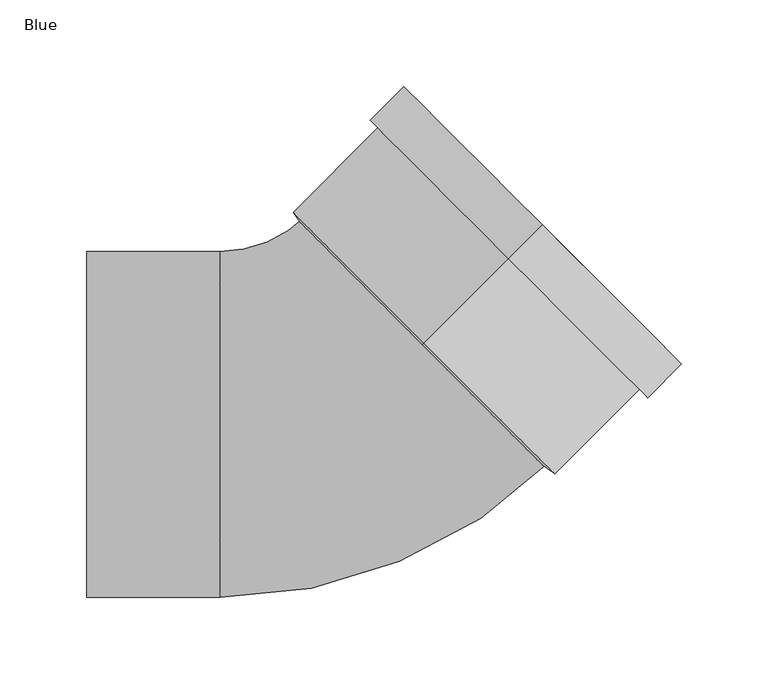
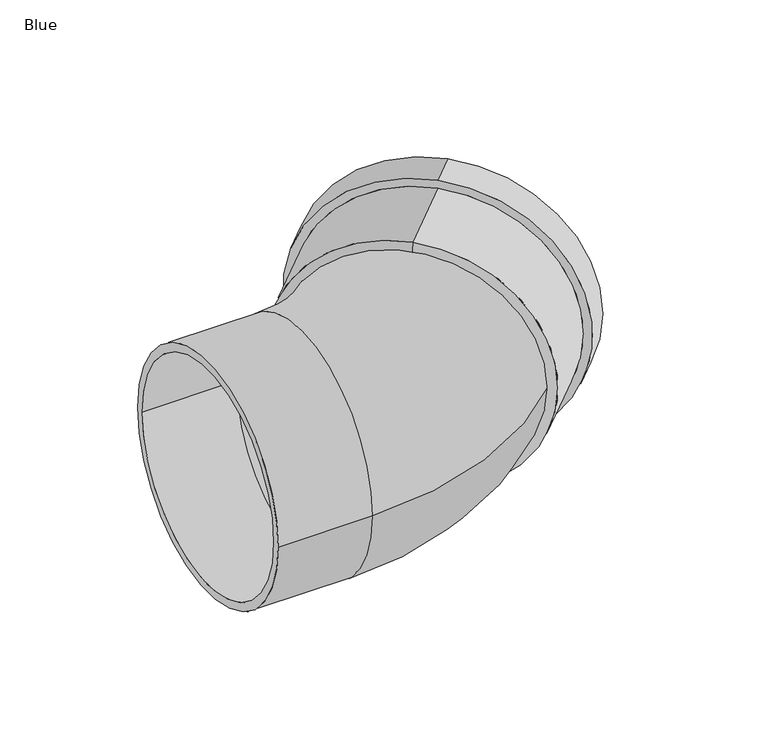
"""IFC4 building model written with IfcOpenShell, lengths in millimetres: pipe fitting geometry, AWADUKT PP SN10 Bend : Blue."""

from ifc_helpers import new_model, si_unit, point, frame, origin, place, context, project, spatial, polyline, circle_curve, ellipse_curve, trimmed, source, transform, mapped, element, save
from ifc_brep_helpers import plane_surface, cylinder_surface, revolved_surface, advanced_brep


def blue_9c2ccc73(model_context):
    return source(origin(), model_context, "Body", "AdvancedBrep", [
        advanced_brep(
        [(95.8836795, 95.8836795, 106.9), (95.8836795, 95.8836795, -106.9), (46.9708893, 46.9708893, -106.9), (46.9708893, 46.9708893, 106.9), (115.3998267, 115.3998267, 113.8), (115.3998267, 115.3998267, -113.8), (95.8836795, 95.8836795, -113.8), (95.8836795, 95.8836795, 113.8), (110.5207899, 110.5207899, 100.0), (110.5207899, 110.5207899, -100.0), (115.3998267, 115.3998267, -100.0), (115.3998267, 115.3998267, 100.0), (100.7627163, 100.7627163, 106.9), (100.7627163, 100.7627163, -106.9), (110.5207899, 110.5207899, -106.9), (110.5207899, 110.5207899, 106.9), (51.0648873, 51.0648873, 100.0), (51.0648873, 51.0648873, -100.0), (100.7627163, 100.7627163, -100.0), (100.7627163, 100.7627163, 100.0), (50.2045815, 50.2045815, 93.1), (50.2045815, 50.2045815, -93.1), (45.2502777, 45.2502777, 93.1), (45.2502777, 45.2502777, -93.1)],
        [
            (0, 1, circle_curve(frame((95.8836795, 95.8836795, 0.0), z_axis=(-0.7071067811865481, -0.7071067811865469, 0.0), x_axis=(0.0, 0.0, -1.0)), 106.9)),
            (1, 2),
            (2, 3, circle_curve(frame((46.9708893, 46.9708893, 0.0), z_axis=(0.7071067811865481, 0.7071067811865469, 0.0), x_axis=(0.0, 0.0, -1.0)), 106.9)),
            (3, 0),
            (4, 5, circle_curve(frame((115.3998267, 115.3998267, 0.0), z_axis=(-0.7071067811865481, -0.7071067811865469, 0.0), x_axis=(0.0, 0.0, -1.0)), 113.8)),
            (5, 6),
            (6, 7, circle_curve(frame((95.8836795, 95.8836795, 0.0), z_axis=(0.7071067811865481, 0.7071067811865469, 0.0), x_axis=(0.0, 0.0, -1.0)), 113.8)),
            (7, 4),
            (8, 9, circle_curve(frame((110.5207899, 110.5207899, 0.0), z_axis=(-0.7071067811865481, -0.7071067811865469, 0.0), x_axis=(0.0, 0.0, -1.0)), 100.0)),
            (9, 10),
            (10, 11, circle_curve(frame((115.3998267, 115.3998267, 0.0), z_axis=(0.7071067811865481, 0.7071067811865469, 0.0), x_axis=(0.0, 0.0, -1.0)), 100.0)),
            (11, 8),
            (12, 13, circle_curve(frame((100.7627163, 100.7627163, 0.0), z_axis=(-0.7071067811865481, -0.7071067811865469, 0.0), x_axis=(0.0, 0.0, -1.0)), 106.9)),
            (13, 14),
            (14, 15, circle_curve(frame((110.5207899, 110.5207899, 0.0), z_axis=(0.7071067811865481, 0.7071067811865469, 0.0), x_axis=(0.0, 0.0, -1.0)), 106.9)),
            (15, 12),
            (16, 17, circle_curve(frame((51.0648873, 51.0648873, 0.0), z_axis=(-0.7071067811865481, -0.7071067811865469, 0.0), x_axis=(0.0, 0.0, -1.0)), 100.0)),
            (17, 18),
            (18, 19, circle_curve(frame((100.7627163, 100.7627163, 0.0), z_axis=(0.7071067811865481, 0.7071067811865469, 0.0), x_axis=(0.0, 0.0, -1.0)), 100.0)),
            (19, 16),
            (20, 21, circle_curve(frame((50.2045815, 50.2045815, 0.0), z_axis=(-0.7071067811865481, -0.7071067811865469, 0.0), x_axis=(0.0, 0.0, -1.0)), 93.1)),
            (21, 17),
            (16, 20),
            (22, 23, circle_curve(frame((45.2502777, 45.2502777, 0.0), z_axis=(-0.7071067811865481, -0.7071067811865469, 0.0), x_axis=(0.0, 0.0, -1.0)), 93.1)),
            (23, 21),
            (20, 22),
            (2, 23),
            (22, 3),
            (1, 0, circle_curve(frame((95.8836795, 95.8836795, 0.0), z_axis=(-0.7071067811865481, -0.7071067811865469, 0.0), x_axis=(0.0, 0.0, 1.0)), 106.9)),
            (3, 2, circle_curve(frame((46.9708893, 46.9708893, 0.0), z_axis=(0.7071067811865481, 0.7071067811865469, 0.0), x_axis=(0.0, 0.0, 1.0)), 106.9)),
            (6, 7, circle_curve(frame((95.8836795, 95.8836795, 0.0), z_axis=(-0.7071067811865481, -0.7071067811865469, 0.0), x_axis=(0.0, 0.0, 1.0)), 113.8)),
            (5, 4, circle_curve(frame((115.3998267, 115.3998267, 0.0), z_axis=(-0.7071067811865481, -0.7071067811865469, 0.0), x_axis=(0.0, 0.0, 1.0)), 113.8)),
            (10, 11, circle_curve(frame((115.3998267, 115.3998267, 0.0), z_axis=(-0.7071067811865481, -0.7071067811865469, 0.0), x_axis=(0.0, 0.0, 1.0)), 100.0)),
            (9, 8, circle_curve(frame((110.5207899, 110.5207899, 0.0), z_axis=(-0.7071067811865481, -0.7071067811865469, 0.0), x_axis=(0.0, 0.0, 1.0)), 100.0)),
            (14, 15, circle_curve(frame((110.5207899, 110.5207899, 0.0), z_axis=(-0.7071067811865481, -0.7071067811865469, 0.0), x_axis=(0.0, 0.0, 1.0)), 106.9)),
            (13, 12, circle_curve(frame((100.7627163, 100.7627163, 0.0), z_axis=(-0.7071067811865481, -0.7071067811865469, 0.0), x_axis=(0.0, 0.0, 1.0)), 106.9)),
            (18, 19, circle_curve(frame((100.7627163, 100.7627163, 0.0), z_axis=(-0.7071067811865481, -0.7071067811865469, 0.0), x_axis=(0.0, 0.0, 1.0)), 100.0)),
            (17, 16, circle_curve(frame((51.0648873, 51.0648873, 0.0), z_axis=(-0.7071067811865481, -0.7071067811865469, 0.0), x_axis=(0.0, 0.0, 1.0)), 100.0)),
            (21, 20, circle_curve(frame((50.2045815, 50.2045815, 0.0), z_axis=(-0.7071067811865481, -0.7071067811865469, 0.0), x_axis=(0.0, 0.0, 1.0)), 93.1)),
            (23, 22, circle_curve(frame((45.2502777, 45.2502777, 0.0), z_axis=(-0.7071067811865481, -0.7071067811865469, 0.0), x_axis=(0.0, 0.0, 1.0)), 93.1)),
        ],
        [
            cylinder_surface(frame((50.2045815, 50.2045815, 0.0), z_axis=(0.7071067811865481, 0.7071067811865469, 0.0), x_axis=(0.0, 0.0, -1.0)), 106.9),
            cylinder_surface(frame((50.2045815, 50.2045815, 0.0), z_axis=(0.7071067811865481, 0.7071067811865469, 0.0), x_axis=(0.0, 0.0, -1.0)), 113.8),
            revolved_surface(polyline([(115.39982670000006, 115.39982669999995, -100.0), (110.52078990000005, 110.52078989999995, -100.0)]), (50.2045815, 50.2045815, 0.0), (0.7071067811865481, 0.7071067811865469, 0.0)),
            revolved_surface(polyline([(110.52078990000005, 110.52078989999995, -106.9), (100.76271630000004, 100.76271629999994, -106.9)]), (50.2045815, 50.2045815, 0.0), (0.7071067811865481, 0.7071067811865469, 0.0)),
            revolved_surface(polyline([(100.76271630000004, 100.76271629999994, -100.0), (51.0648873, 51.0648873, -100.0)]), (50.2045815, 50.2045815, 0.0), (0.7071067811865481, 0.7071067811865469, 0.0)),
            revolved_surface(polyline([(51.0648873, 51.0648873, -100.0), (50.2045815, 50.2045815, -93.1)]), (50.2045815, 50.2045815, 0.0), (0.7071067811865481, 0.7071067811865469, 0.0)),
            revolved_surface(polyline([(50.2045815, 50.2045815, -93.1), (45.25027769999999, 45.250277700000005, -93.1)]), (50.2045815, 50.2045815, 0.0), (0.7071067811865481, 0.7071067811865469, 0.0)),
            revolved_surface(polyline([(45.2502777, 45.2502777, -93.1), (46.9708893, 46.9708893, -106.9)]), (50.2045815, 50.2045815, 0.0), (0.7071067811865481, 0.7071067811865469, 0.0)),
            cylinder_surface(frame((50.2045815, 50.2045815, 0.0), z_axis=(0.7071067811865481, 0.7071067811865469, 0.0), x_axis=(0.0, 0.0, 1.0)), 106.9),
            plane_surface(frame((95.8836795, 95.8836795, 0.0), z_axis=(-0.7071067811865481, -0.7071067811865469, 0.0), x_axis=(0.0, 0.0, 1.0))),
            cylinder_surface(frame((50.2045815, 50.2045815, 0.0), z_axis=(0.7071067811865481, 0.7071067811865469, 0.0), x_axis=(0.0, 0.0, 1.0)), 113.8),
            plane_surface(frame((115.3998267, 115.3998267, 0.0), z_axis=(0.7071067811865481, 0.7071067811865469, 0.0), x_axis=(0.0, 0.0, 1.0))),
            revolved_surface(polyline([(115.39982670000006, 115.39982669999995, 100.0), (110.52078990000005, 110.52078989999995, 100.0)]), (50.2045815, 50.2045815, 0.0), (0.7071067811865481, 0.7071067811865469, 0.0)),
            plane_surface(frame((110.5207899, 110.5207899, 0.0), z_axis=(-0.7071067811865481, -0.7071067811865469, 0.0), x_axis=(0.0, 0.0, 1.0))),
            revolved_surface(polyline([(110.52078990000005, 110.52078989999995, 106.9), (100.76271630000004, 100.76271629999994, 106.9)]), (50.2045815, 50.2045815, 0.0), (0.7071067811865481, 0.7071067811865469, 0.0)),
            plane_surface(frame((100.7627163, 100.7627163, 0.0), z_axis=(0.7071067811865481, 0.7071067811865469, 0.0), x_axis=(0.0, 0.0, 1.0))),
            revolved_surface(polyline([(100.76271630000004, 100.76271629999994, 100.0), (51.0648873, 51.0648873, 100.0)]), (50.2045815, 50.2045815, 0.0), (0.7071067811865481, 0.7071067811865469, 0.0)),
            revolved_surface(polyline([(51.0648873, 51.0648873, 100.0), (50.2045815, 50.2045815, 93.1)]), (50.2045815, 50.2045815, 0.0), (0.7071067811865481, 0.7071067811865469, 0.0)),
            revolved_surface(polyline([(50.2045815, 50.2045815, 93.1), (45.25027769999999, 45.250277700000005, 93.1)]), (50.2045815, 50.2045815, 0.0), (0.7071067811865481, 0.7071067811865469, 0.0)),
            revolved_surface(polyline([(45.2502777, 45.2502777, 93.1), (46.9708893, 46.9708893, 106.9)]), (50.2045815, 50.2045815, 0.0), (0.7071067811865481, 0.7071067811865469, 0.0)),
        ],
        [
            (0, [[1, 2, 3, 4]]),
            (1, [[5, 6, 7, 8]]),
            (2, [[9, 10, 11, 12]]),
            (3, [[13, 14, 15, 16]]),
            (4, [[17, 18, 19, 20]]),
            (5, [[21, 22, -17, 23]]),
            (6, [[24, 25, -21, 26]]),
            (7, [[-3, 27, -24, 28]]),
            (8, [[29, -4, 30, -2]]),
            (9, [[31, -7], [-29, -1]]),
            (10, [[32, -8, -31, -6]]),
            (11, [[-32, -5], [33, -11]]),
            (12, [[34, -12, -33, -10]]),
            (13, [[35, -15], [-34, -9]]),
            (14, [[36, -16, -35, -14]]),
            (15, [[-36, -13], [37, -19]]),
            (16, [[38, -20, -37, -18]]),
            (17, [[39, -23, -38, -22]]),
            (18, [[40, -26, -39, -25]]),
            (19, [[-30, -28, -40, -27]]),
        ],
    ),
        advanced_brep(
        [(-148.0, -100.0, 0.0), (-148.0, 100.0, 0.0), (-148.0, -93.1, 0.0), (-148.0, 93.1, 0.0), (120.9152596, -20.5060967, 0.0), (-20.5060967, 120.9152596, 0.0), (116.0362228, -15.6270599, 0.0), (-15.6270599, 116.0362228, 0.0), (-71.0, -93.1, 0.0), (-71.0, 93.1, 0.0), (-71.0, -100.0, 0.0), (-71.0, 100.0, 0.0)],
        [
            (0, 1, circle_curve(frame((-148.0, 0.0, 0.0), z_axis=(-1.0, 0.0, 0.0), x_axis=(0.0, 1.0, 0.0)), 100.0)),
            (1, 0, circle_curve(frame((-148.0, 0.0, 0.0), z_axis=(-1.0, 0.0, 0.0), x_axis=(0.0, 1.0, 0.0)), 100.0)),
            (2, 3, circle_curve(frame((-148.0, 0.0, 0.0), z_axis=(1.0, 0.0, 0.0), x_axis=(0.0, 1.0, 0.0)), 93.1)),
            (3, 2, circle_curve(frame((-148.0, 0.0, 0.0), z_axis=(1.0, 0.0, 0.0), x_axis=(0.0, 1.0, 0.0)), 93.1)),
            (4, 5, circle_curve(frame((50.2045815, 50.2045815, 0.0), z_axis=(0.7071067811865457, 0.7071067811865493, 0.0), x_axis=(-0.7071067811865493, 0.7071067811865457, 0.0)), 100.0)),
            (5, 4, circle_curve(frame((50.2045815, 50.2045815, 0.0), z_axis=(0.7071067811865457, 0.7071067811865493, 0.0), x_axis=(-0.7071067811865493, 0.7071067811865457, 0.0)), 100.0)),
            (6, 7, circle_curve(frame((50.2045815, 50.2045815, 0.0), z_axis=(-0.7071067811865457, -0.7071067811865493, 0.0), x_axis=(-0.7071067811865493, 0.7071067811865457, 0.0)), 93.1)),
            (7, 6, circle_curve(frame((50.2045815, 50.2045815, 0.0), z_axis=(-0.7071067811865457, -0.7071067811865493, 0.0), x_axis=(-0.7071067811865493, 0.7071067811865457, 0.0)), 93.1)),
            (2, 8),
            (8, 9, circle_curve(frame((-71.0, 0.0, 0.0), z_axis=(1.0, 0.0, 0.0), x_axis=(0.0, 1.0, 0.0)), 93.1)),
            (9, 3),
            (9, 8, circle_curve(frame((-71.0, 0.0, 0.0), z_axis=(1.0, 0.0, 0.0), x_axis=(0.0, 1.0, 0.0)), 93.1)),
            (0, 10),
            (10, 11, circle_curve(frame((-71.0, 0.0, 0.0), z_axis=(-1.0, 0.0, 0.0), x_axis=(0.0, 1.0, 0.0)), 100.0)),
            (11, 1),
            (11, 10, circle_curve(frame((-71.0, 0.0, 0.0), z_axis=(-1.0, 0.0, 0.0), x_axis=(0.0, 1.0, 0.0)), 100.0)),
            (7, 9, circle_curve(frame((-71.0, 171.4091629, 0.0), z_axis=(0.0, 0.0, -1.0), x_axis=(0.0, -1.0, 0.0)), 78.3091629)),
            (8, 6, circle_curve(frame((-71.0, 171.4091629, 0.0), z_axis=(0.0, 0.0, 1.0), x_axis=(0.0, -1.0, 0.0)), 264.5091629)),
            (5, 11, circle_curve(frame((-71.0, 171.4091629, 0.0), z_axis=(0.0, 0.0, -1.0), x_axis=(0.0, -1.0, 0.0)), 71.4091629)),
            (10, 4, circle_curve(frame((-71.0, 171.4091629, 0.0), z_axis=(0.0, 0.0, 1.0), x_axis=(0.0, -1.0, 0.0)), 271.4091629)),
        ],
        [
            plane_surface(frame((-148.0, 0.0, 0.0), z_axis=(-1.0, 0.0, 0.0), x_axis=(0.0, 0.0, 1.0))),
            plane_surface(frame((50.2045815, 50.2045815, 0.0), z_axis=(0.7071067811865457, 0.7071067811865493, 0.0), x_axis=(0.0, 0.0, 1.0))),
            revolved_surface(polyline([(-71.0, 93.1, 0.0), (-148.0, 93.1, 0.0)]), (-148.0, 0.0, 0.0), (1.0, 0.0, 0.0)),
            cylinder_surface(frame((-148.0, 0.0, 0.0), z_axis=(-1.0, 0.0, 0.0), x_axis=(0.0, 1.0, 0.0)), 100.0),
            revolved_surface(trimmed(ellipse_curve(frame((-71.0, 0.0, 0.0), z_axis=(1.0, 0.0, 0.0), x_axis=(0.0, 1.0, 0.0)), 93.1, 93.1), [point((-71.0, -93.1, 0.0))], [point((-71.0, 93.1, 0.0))], True, "CARTESIAN"), (-71.0, 171.4091629, 0.0), (0.0, 0.0, 1.0)),
            revolved_surface(trimmed(ellipse_curve(frame((-71.0, 0.0, 0.0), z_axis=(1.0, 0.0, 0.0), x_axis=(0.0, 1.0, 0.0)), 93.1, 93.1), [point((-71.0, 93.1, 0.0))], [point((-71.0, -93.1, 0.0))], True, "CARTESIAN"), (-71.0, 171.4091629, 0.0), (0.0, 0.0, 1.0)),
            revolved_surface(trimmed(ellipse_curve(frame((-71.0, 0.0, 0.0), z_axis=(-1.0, 0.0, 0.0), x_axis=(0.0, 1.0, 0.0)), 100.0, 100.0), [point((-71.0, -100.0, 0.0))], [point((-71.0, 100.0, 0.0))], True, "CARTESIAN"), (-71.0, 171.4091629, 0.0), (0.0, 0.0, 1.0)),
            revolved_surface(trimmed(ellipse_curve(frame((-71.0, 0.0, 0.0), z_axis=(-1.0, 0.0, 0.0), x_axis=(0.0, 1.0, 0.0)), 100.0, 100.0), [point((-71.0, 100.0, 0.0))], [point((-71.0, -100.0, 0.0))], True, "CARTESIAN"), (-71.0, 171.4091629, 0.0), (0.0, 0.0, 1.0)),
        ],
        [
            (0, [[1, 2], [3, 4]]),
            (1, [[5, 6], [7, 8]]),
            (2, [[-3, 9, 10, 11]]),
            (2, [[-4, -11, 12, -9]]),
            (3, [[-1, 13, 14, 15]]),
            (3, [[-2, -15, 16, -13]]),
            (4, [[17, -10, 18, -8]]),
            (5, [[-18, -12, -17, -7]]),
            (6, [[19, -14, 20, -6]]),
            (7, [[-20, -16, -19, -5]]),
        ],
    ),
    ])


if __name__ == "__main__":
    model = new_model("IFC4")
    model_context = context("Model", 3, world=origin())
    ifc_project = project(units=[si_unit("LENGTHUNIT", "METRE", prefix="MILLI")], contexts=[model_context])
    site = spatial("IfcSite", under=ifc_project)
    building = spatial("IfcBuilding", under=site)
    placement = place(None, origin())
    blue_shape = blue_9c2ccc73(model_context)
    element("IfcPipeFitting", 1, ObjectType="AWADUKT PP SN10 Bend : Blue", at=placement, inside=building, context=model_context, shape_type="MappedRepresentation", body=[
        mapped(blue_shape, transform((0.0, 0.0, 0.0), x_axis=(1.0, 0.0, 0.0), y_axis=(0.0, 1.0, 0.0), z_axis=(0.0, 0.0, 1.0))),
    ])
    save(model, "model.ifc")
